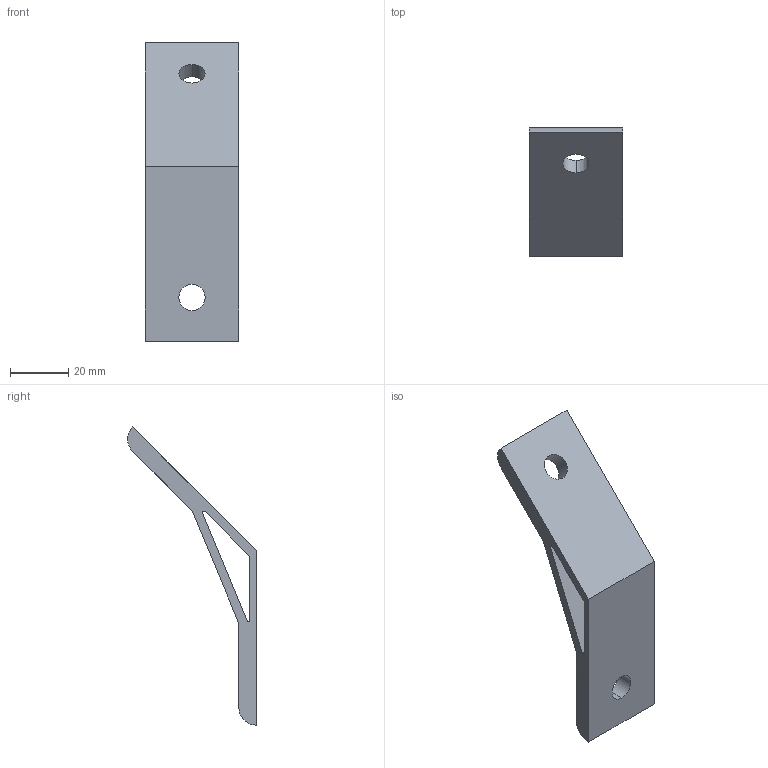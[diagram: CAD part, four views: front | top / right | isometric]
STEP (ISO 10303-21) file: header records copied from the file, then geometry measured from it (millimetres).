
FILE_DESCRIPTION (( 'STEP AP203' ), '1' );
FILE_NAME ('6144.STEP', '2016-06-27T12:02:14', ( 'RosInstal-MKM' ), ( '' ), 'SwSTEP 2.0', 'SolidWorks 2014', '' );
FILE_SCHEMA (( 'CONFIG_CONTROL_DESIGN' ));
Length unit declared in the file: millimetre
Products named in the file (1): 6144
Bounding box: 32 x 44.16 x 102.43 mm (x, y, z)
Volume: 20413.6 mm3; surface area: 11798 mm2
Topology: 1 solids, 1 shells, 19 faces, 51 edges, 34 vertices
Faces by surface type: plane 10, cylinder 9
Entity records: 692 total; most frequent: DIRECTION 109, CARTESIAN_POINT 105, ORIENTED_EDGE 102, EDGE_CURVE 51, AXIS2_PLACEMENT_3D 38, VERTEX_POINT 34, VECTOR 33, LINE 33
